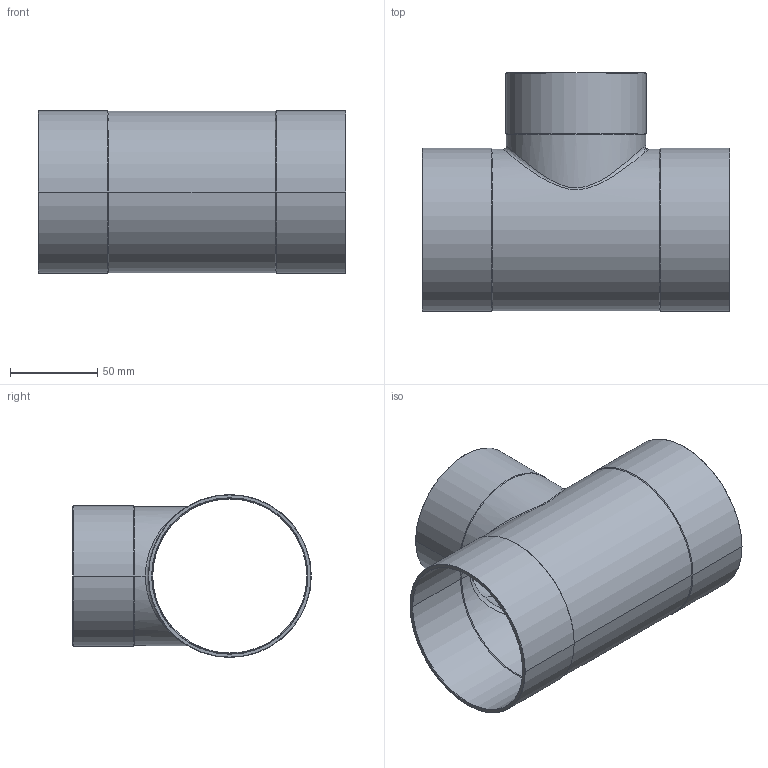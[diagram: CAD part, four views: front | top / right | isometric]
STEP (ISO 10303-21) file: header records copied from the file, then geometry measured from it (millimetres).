
FILE_DESCRIPTION((''),'2;1');
FILE_NAME('G:\Technics\CAD\Bauteile\15130\15130897689.stp','2005-11-02T10:20:06',('boden'),(''),'Autodesk Inventor 8','Autodesk Inventor 8','');
FILE_SCHEMA(('AUTOMOTIVE_DESIGN { 1 0 10303 214 1 1 1 1 }'));
Length unit declared in the file: millimetre
Products named in the file (1): 15130897689
Bounding box: 176 x 136.7 x 93.4 mm (x, y, z)
Volume: 122366.8 mm3; surface area: 118117.8 mm2
Topology: 1 solids, 1 shells, 49 faces, 108 edges, 60 vertices
Faces by surface type: cone 24, cylinder 20, plane 3, bspline 2
Entity records: 1887 total; most frequent: CARTESIAN_POINT 780, DIRECTION 242, ORIENTED_EDGE 216, EDGE_CURVE 108, AXIS2_PLACEMENT_3D 98, VERTEX_POINT 60, EDGE_LOOP 52, CIRCLE 50
